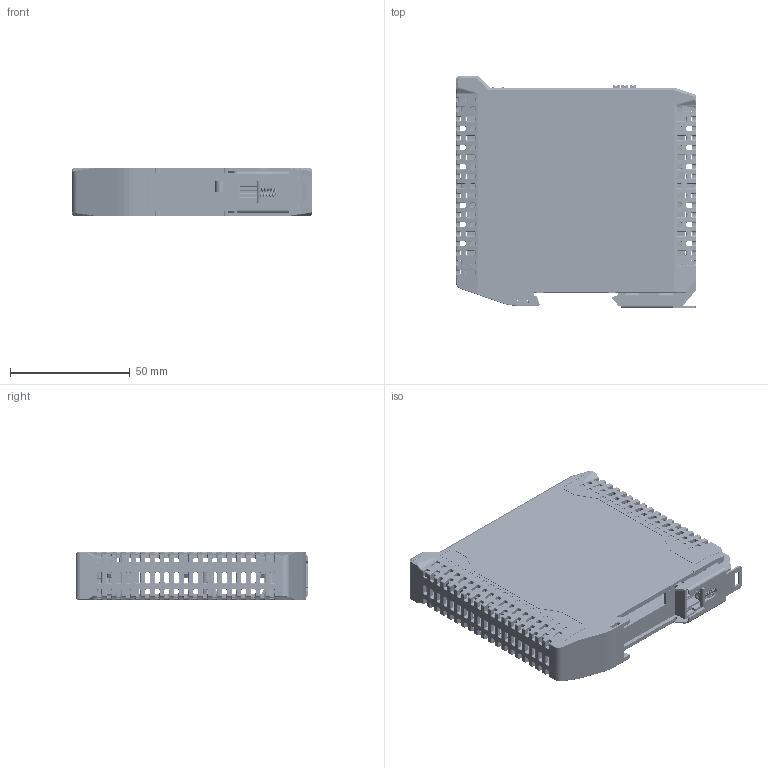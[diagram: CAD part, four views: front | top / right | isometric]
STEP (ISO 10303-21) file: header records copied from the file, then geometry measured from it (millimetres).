
FILE_DESCRIPTION((''),'2;1');
FILE_NAME('DAUDIN_GF2-C003T_ASM','2023-04-11T',('Rex.Song'),(''),'CREO PARAMETRIC BY PTC INC, 2015480','CREO PARAMETRIC BY PTC INC, 2015480','');
FILE_SCHEMA(('CONFIG_CONTROL_DESIGN'));
Products named in the file (15): 0173AL4800_AF1; 0173A00200; 0173A00200_AF1; 0173B02100; C000004600_AF0; PCB_BS-5319D; 0173AL4900_AF1; BS-5319D_AF1_ASM; BS-5319D-S15379_AF0_ASM; RJ45_1; DINKLE_FZ01_BS-5316_1_1_1_2_3_3; DINKLE_FZ01_BS-5316_1_1_1_2_3_5; DINKLE_FZ01_BS-5316_1_1_1_2_3_4_ASM; DINKLE_0138-51XX; DAUDIN_GF2-C003T_ASM
Assembly tree (15 placements, depth 4):
  DAUDIN_GF2-C003T_ASM
    BS-5319D-S15379_AF0_ASM
      BS-5319D_AF1_ASM
        0173AL4800_AF1
        0173A00200
        0173A00200_AF1
        0173B02100
        C000004600_AF0
        PCB_BS-5319D
        0173AL4900_AF1
    RJ45_1  x2
    DINKLE_FZ01_BS-5316_1_1_1_2_3_4_ASM
      DINKLE_FZ01_BS-5316_1_1_1_2_3_3
      DINKLE_FZ01_BS-5316_1_1_1_2_3_5
    DINKLE_0138-51XX
Bounding box: 100 x 97 x 20 mm (x, y, z)
Volume: 43202.9 mm3; surface area: 75888.3 mm2
Topology: 13 solids, 24 shells, 8896 faces, 23628 edges, 14896 vertices
Faces by surface type: plane 3616, cylinder 3143, extrusion 876, torus 558, bspline 514, cone 98, sphere 91
Entity records: 342714 total; most frequent: CARTESIAN_POINT 126873, ORIENTED_EDGE 46149, DIRECTION 40643, EDGE_CURVE 23135, VERTEX_POINT 14585, VECTOR 14475, LINE 13599, AXIS2_PLACEMENT_3D 13084
